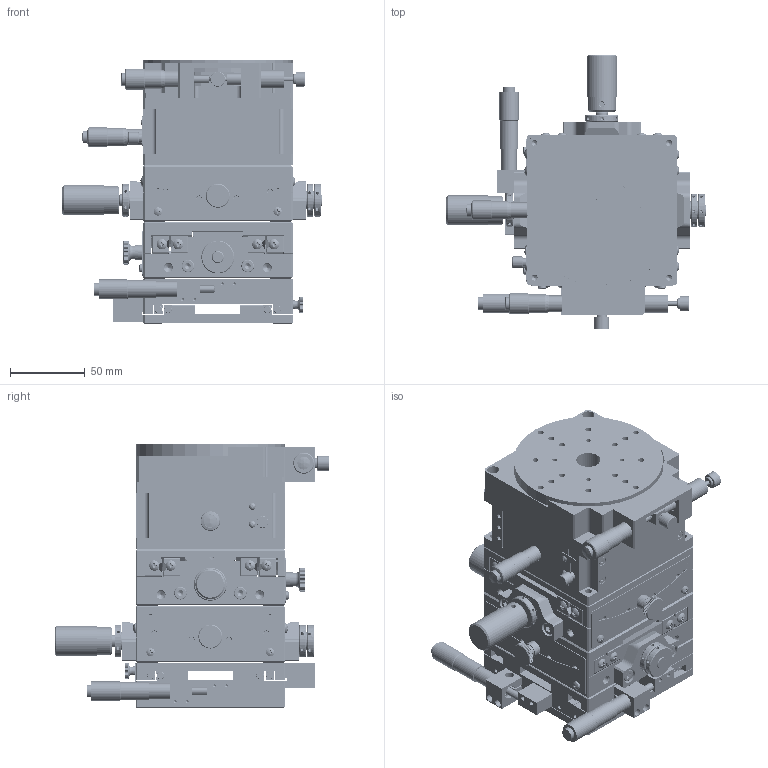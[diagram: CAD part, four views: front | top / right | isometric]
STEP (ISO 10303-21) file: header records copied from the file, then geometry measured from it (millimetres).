
FILE_DESCRIPTION (( 'STEP AP203' ), '1' );
FILE_NAME ('×°ÅäÌå1.STEP', '2021-12-22T13:43:16', ( '' ), ( '' ), 'SwSTEP 2.0', 'SolidWorks 2016', '' );
FILE_SCHEMA (( 'CONFIG_CONTROL_DESIGN' ));
Products named in the file (1): 蚾饜极1
Bounding box: 173.5 x 183.47 x 176 mm (x, y, z)
Volume: 1613343.5 mm3; surface area: 633101.6 mm2
Topology: 226 solids, 226 shells, 8024 faces, 20170 edges, 12506 vertices
Faces by surface type: plane 3546, cylinder 2614, cone 1082, torus 440, sphere 210, bspline 132
Entity records: 282951 total; most frequent: CARTESIAN_POINT 91561, DIRECTION 41091, ORIENTED_EDGE 38734, EDGE_CURVE 19367, AXIS2_PLACEMENT_3D 16008, VERTEX_POINT 12239, EDGE_LOOP 9534, LINE 9075
